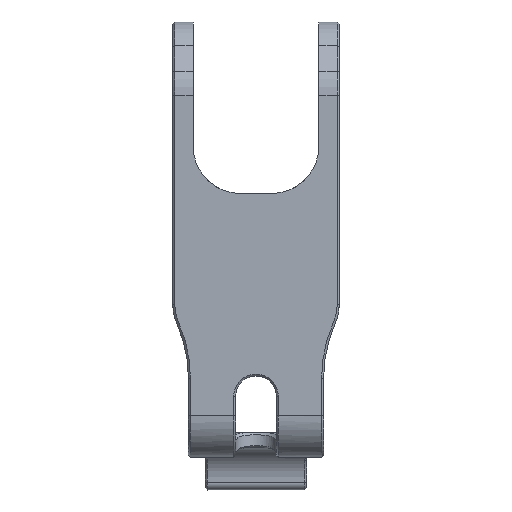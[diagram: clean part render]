
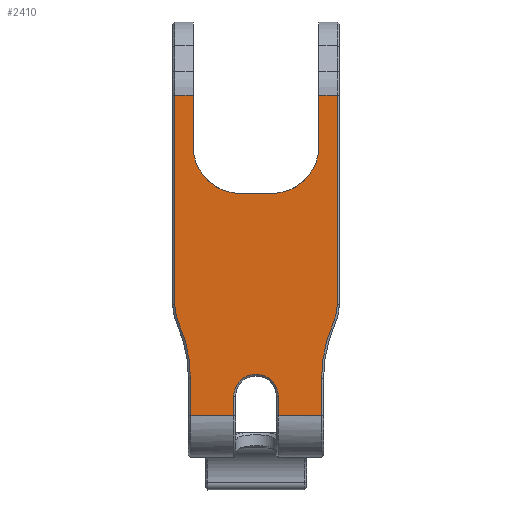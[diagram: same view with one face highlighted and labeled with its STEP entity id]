
A CAD part, left-side view. The second image highlights one B-rep face of the part: STEP entity #2410.
In plain terms, the highlighted planar face has unit normal (-1, 0, 0).
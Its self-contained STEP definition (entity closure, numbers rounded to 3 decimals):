
#196=CIRCLE('',#2481,7.);
#209=CIRCLE('',#2498,7.);
#215=CIRCLE('',#2507,3.3);
#247=CIRCLE('',#2578,20.3);
#248=CIRCLE('',#2580,6.7);
#275=CIRCLE('',#2635,20.3);
#276=CIRCLE('',#2636,6.7);
#427=FACE_OUTER_BOUND('',#569,.T.);
#569=EDGE_LOOP('',(#2088,#2089,#2090,#2091,#2092,#2093,#2094,#2095,#2096,
#2097,#2098,#2099,#2100,#2101,#2102,#2103,#2104,#2105,#2106,#2107));
#613=LINE('',#3278,#778);
#615=LINE('',#3283,#780);
#626=LINE('',#3355,#791);
#634=LINE('',#4153,#799);
#638=LINE('',#4164,#803);
#666=LINE('',#5166,#831);
#683=LINE('',#5423,#848);
#699=LINE('',#6584,#864);
#703=LINE('',#6595,#868);
#717=LINE('',#6756,#882);
#735=LINE('',#6982,#900);
#739=LINE('',#7145,#904);
#740=LINE('',#7150,#905);
#778=VECTOR('',#2703,1.);
#780=VECTOR('',#2707,1.);
#791=VECTOR('',#2764,1.);
#799=VECTOR('',#2794,1.);
#803=VECTOR('',#2806,1.);
#831=VECTOR('',#2890,1.);
#848=VECTOR('',#2961,1.);
#864=VECTOR('',#3001,1.);
#868=VECTOR('',#3015,1.);
#882=VECTOR('',#3065,1.);
#900=VECTOR('',#3143,1.);
#904=VECTOR('',#3157,1.);
#905=VECTOR('',#3162,1.);
#951=VERTEX_POINT('',#3275);
#952=VERTEX_POINT('',#3277);
#953=VERTEX_POINT('',#3281);
#954=VERTEX_POINT('',#3282);
#971=VERTEX_POINT('',#3335);
#980=VERTEX_POINT('',#3353);
#990=VERTEX_POINT('',#3519);
#1005=VERTEX_POINT('',#4116);
#1007=VERTEX_POINT('',#4152);
#1009=VERTEX_POINT('',#4158);
#1052=VERTEX_POINT('',#5165);
#1085=VERTEX_POINT('',#5422);
#1096=VERTEX_POINT('',#6583);
#1097=VERTEX_POINT('',#6587);
#1098=VERTEX_POINT('',#6591);
#1113=VERTEX_POINT('',#6755);
#1149=VERTEX_POINT('',#6981);
#1158=VERTEX_POINT('',#7144);
#1159=VERTEX_POINT('',#7146);
#1160=VERTEX_POINT('',#7148);
#1185=EDGE_CURVE('',#952,#951,#613,.T.);
#1187=EDGE_CURVE('',#953,#954,#615,.T.);
#1202=EDGE_CURVE('',#953,#952,#196,.T.);
#1219=EDGE_CURVE('',#971,#980,#626,.T.);
#1224=EDGE_CURVE('',#951,#971,#209,.T.);
#1253=EDGE_CURVE('',#1005,#1007,#634,.F.);
#1256=EDGE_CURVE('',#1007,#1009,#215,.T.);
#1259=EDGE_CURVE('',#1009,#990,#638,.F.);
#1323=EDGE_CURVE('',#980,#1052,#666,.T.);
#1368=EDGE_CURVE('',#990,#1085,#683,.T.);
#1403=EDGE_CURVE('',#1085,#1096,#699,.F.);
#1405=EDGE_CURVE('',#1096,#1097,#247,.T.);
#1407=EDGE_CURVE('',#1097,#1098,#248,.F.);
#1409=EDGE_CURVE('',#1098,#1052,#703,.F.);
#1434=EDGE_CURVE('',#954,#1113,#717,.F.);
#1482=EDGE_CURVE('',#1149,#1005,#735,.T.);
#1494=EDGE_CURVE('',#1149,#1158,#739,.T.);
#1495=EDGE_CURVE('',#1158,#1159,#275,.F.);
#1496=EDGE_CURVE('',#1159,#1160,#276,.T.);
#1497=EDGE_CURVE('',#1160,#1113,#740,.T.);
#2088=ORIENTED_EDGE('',*,*,#1434,.F.);
#2089=ORIENTED_EDGE('',*,*,#1187,.F.);
#2090=ORIENTED_EDGE('',*,*,#1202,.T.);
#2091=ORIENTED_EDGE('',*,*,#1185,.T.);
#2092=ORIENTED_EDGE('',*,*,#1224,.T.);
#2093=ORIENTED_EDGE('',*,*,#1219,.T.);
#2094=ORIENTED_EDGE('',*,*,#1323,.T.);
#2095=ORIENTED_EDGE('',*,*,#1409,.F.);
#2096=ORIENTED_EDGE('',*,*,#1407,.F.);
#2097=ORIENTED_EDGE('',*,*,#1405,.F.);
#2098=ORIENTED_EDGE('',*,*,#1403,.F.);
#2099=ORIENTED_EDGE('',*,*,#1368,.F.);
#2100=ORIENTED_EDGE('',*,*,#1259,.F.);
#2101=ORIENTED_EDGE('',*,*,#1256,.F.);
#2102=ORIENTED_EDGE('',*,*,#1253,.F.);
#2103=ORIENTED_EDGE('',*,*,#1482,.F.);
#2104=ORIENTED_EDGE('',*,*,#1494,.T.);
#2105=ORIENTED_EDGE('',*,*,#1495,.T.);
#2106=ORIENTED_EDGE('',*,*,#1496,.T.);
#2107=ORIENTED_EDGE('',*,*,#1497,.T.);
#2298=PLANE('',#2634);
#2410=ADVANCED_FACE('',(#427),#2298,.T.);
#2481=AXIS2_PLACEMENT_3D('',#3320,#2731,#2732);
#2498=AXIS2_PLACEMENT_3D('',#3378,#2772,#2773);
#2507=AXIS2_PLACEMENT_3D('',#4159,#2799,#2800);
#2578=AXIS2_PLACEMENT_3D('',#6588,#3005,#3006);
#2580=AXIS2_PLACEMENT_3D('',#6592,#3010,#3011);
#2634=AXIS2_PLACEMENT_3D('',#7143,#3155,#3156);
#2635=AXIS2_PLACEMENT_3D('',#7147,#3158,#3159);
#2636=AXIS2_PLACEMENT_3D('',#7149,#3160,#3161);
#2703=DIRECTION('',(0.,1.,0.));
#2707=DIRECTION('',(0.,0.,1.));
#2731=DIRECTION('center_axis',(1.,0.,0.));
#2732=DIRECTION('ref_axis',(0.,-1.,0.));
#2764=DIRECTION('',(0.,0.,1.));
#2772=DIRECTION('center_axis',(1.,0.,0.));
#2773=DIRECTION('ref_axis',(0.,-1.,0.));
#2794=DIRECTION('',(0.,0.,-1.));
#2799=DIRECTION('center_axis',(-1.,0.,0.));
#2800=DIRECTION('ref_axis',(0.,1.,0.));
#2806=DIRECTION('',(0.,0.,1.));
#2890=DIRECTION('',(0.,1.,0.));
#2961=DIRECTION('',(0.,1.,0.));
#3001=DIRECTION('',(0.,0.,-1.));
#3005=DIRECTION('center_axis',(-1.,0.,0.));
#3006=DIRECTION('ref_axis',(0.,1.,0.));
#3010=DIRECTION('center_axis',(-1.,0.,0.));
#3011=DIRECTION('ref_axis',(0.,1.,0.));
#3015=DIRECTION('',(0.,0.,-1.));
#3065=DIRECTION('',(0.,1.,0.));
#3143=DIRECTION('',(0.,1.,0.));
#3155=DIRECTION('center_axis',(-1.,0.,0.));
#3156=DIRECTION('ref_axis',(0.,0.,1.));
#3157=DIRECTION('',(0.,0.,1.));
#3158=DIRECTION('center_axis',(-1.,0.,0.));
#3159=DIRECTION('ref_axis',(0.,1.,0.));
#3160=DIRECTION('center_axis',(-1.,0.,0.));
#3161=DIRECTION('ref_axis',(0.,1.,0.));
#3162=DIRECTION('',(0.,0.,1.));
#3275=CARTESIAN_POINT('',(-29.7,2.3,13.));
#3277=CARTESIAN_POINT('',(-29.7,-2.3,13.));
#3278=CARTESIAN_POINT('',(-29.7,0.,13.));
#3281=CARTESIAN_POINT('',(-29.7,-9.3,20.));
#3282=CARTESIAN_POINT('',(-29.7,-9.3,27.55));
#3283=CARTESIAN_POINT('',(-29.7,-9.3,23.775));
#3320=CARTESIAN_POINT('Origin',(-29.7,-2.3,20.));
#3335=CARTESIAN_POINT('',(-29.7,9.3,20.));
#3353=CARTESIAN_POINT('',(-29.7,9.3,27.55));
#3355=CARTESIAN_POINT('',(-29.7,9.3,23.775));
#3378=CARTESIAN_POINT('Origin',(-29.7,2.3,20.));
#3519=CARTESIAN_POINT('',(-29.7,3.3,-19.816));
#4116=CARTESIAN_POINT('',(-29.7,-3.3,-19.816));
#4152=CARTESIAN_POINT('',(-29.7,-3.3,-17.));
#4153=CARTESIAN_POINT('',(-29.7,-3.3,8.604));
#4158=CARTESIAN_POINT('',(-29.7,3.3,-17.));
#4159=CARTESIAN_POINT('Origin',(-29.7,0.,-17.));
#4164=CARTESIAN_POINT('',(-29.7,3.3,-23.144));
#5165=CARTESIAN_POINT('',(-29.7,12.,27.55));
#5166=CARTESIAN_POINT('',(-29.7,0.,27.55));
#5422=CARTESIAN_POINT('',(-29.7,9.7,-19.816));
#5423=CARTESIAN_POINT('',(-29.7,0.,-19.816));
#6583=CARTESIAN_POINT('',(-29.7,9.7,-14.312));
#6584=CARTESIAN_POINT('',(-29.7,9.7,8.604));
#6587=CARTESIAN_POINT('',(-29.7,11.429,-6.113));
#6588=CARTESIAN_POINT('Origin',(-29.7,30.,-14.312));
#6591=CARTESIAN_POINT('',(-29.7,12.,-3.407));
#6592=CARTESIAN_POINT('Origin',(-29.7,5.3,-3.407));
#6595=CARTESIAN_POINT('',(-29.7,12.,8.715));
#6755=CARTESIAN_POINT('',(-29.7,-12.,27.55));
#6756=CARTESIAN_POINT('',(-29.7,0.,27.55));
#6981=CARTESIAN_POINT('',(-29.7,-9.7,-19.816));
#6982=CARTESIAN_POINT('',(-29.7,0.,-19.816));
#7143=CARTESIAN_POINT('Origin',(-29.7,0.,-19.816));
#7144=CARTESIAN_POINT('',(-29.7,-9.7,-14.312));
#7145=CARTESIAN_POINT('',(-29.7,-9.7,-17.064));
#7146=CARTESIAN_POINT('',(-29.7,-11.429,-6.113));
#7147=CARTESIAN_POINT('Origin',(-29.7,-30.,-14.312));
#7148=CARTESIAN_POINT('',(-29.7,-12.,-3.407));
#7149=CARTESIAN_POINT('Origin',(-29.7,-5.3,-3.407));
#7150=CARTESIAN_POINT('',(-29.7,-12.,12.072));
